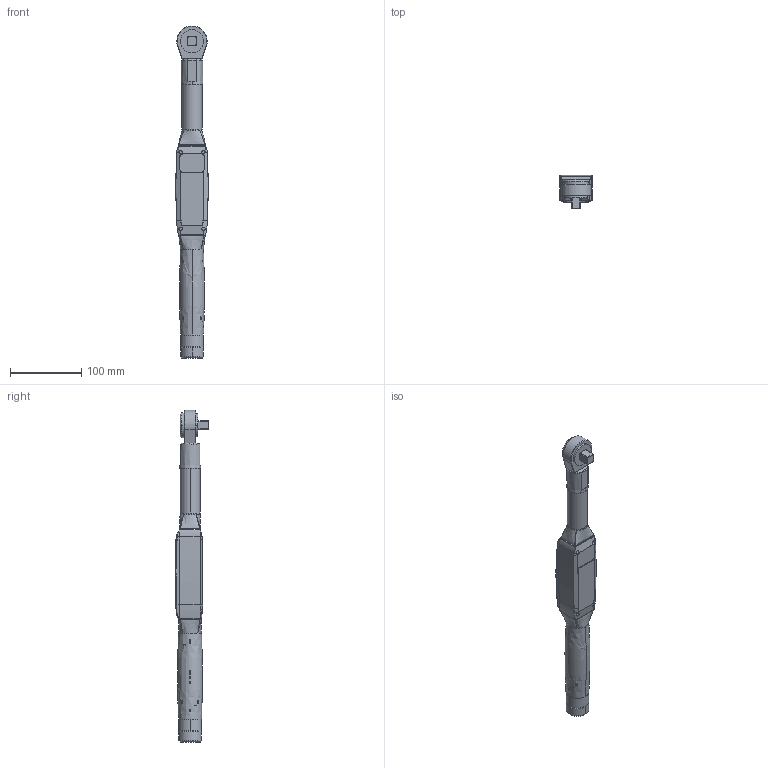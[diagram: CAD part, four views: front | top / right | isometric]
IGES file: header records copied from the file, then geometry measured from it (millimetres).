
Start section:  PTC IGES file: 6159352110_dim.igs
Global section: file name: 6159352110_dim.igs; native system: Creo Parametric by PTC Inc.; preprocessor: 2021072; author: S00000450; organization: Unknown; date: 20210628.091853; units: millimetre
Bounding box: 45.16 x 47.45 x 464.68 mm (x, y, z)
Surface area: 67991.1 mm2 (no closed solid volume)
Topology: 0 solids, 0 shells, 276 faces, 1293 edges, 1283 vertices
Faces by surface type: bspline 171, revolution 97, extrusion 8
